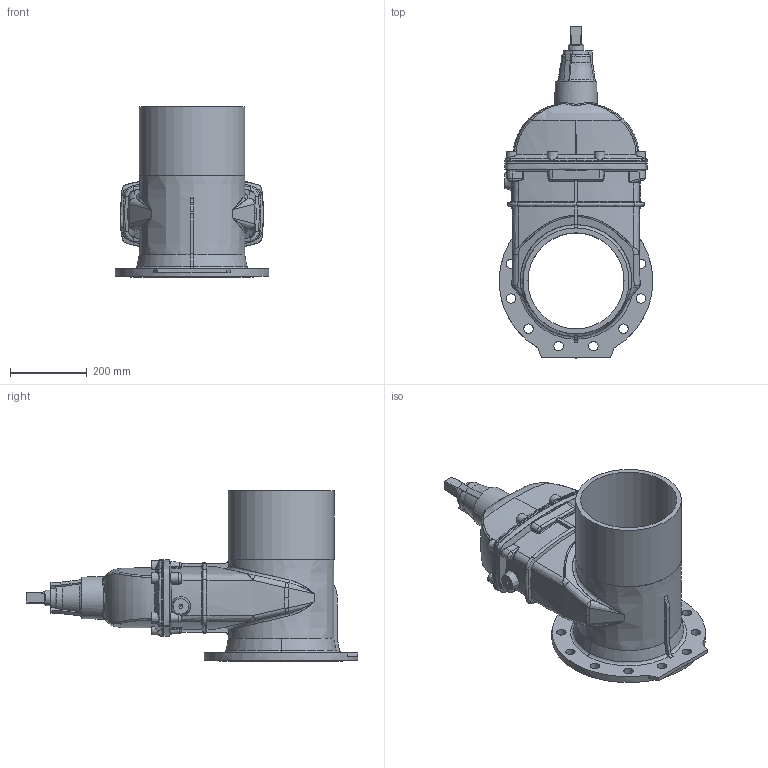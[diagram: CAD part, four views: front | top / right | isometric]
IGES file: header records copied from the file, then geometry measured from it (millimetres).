
Start section: SolidWorks IGES file using analytic representation for surfaces
Global section: file name: \\avksan2\techshare\PBM outline export from Enovia\O_12_51_DN250_AA1_igs.igs; native system: SolidWorks 2012; preprocessor: SolidWorks 2012; author: pbm; date: 151023.095146; units: millimetre
Bounding box: 400 x 863.9 x 444 mm (x, y, z)
Surface area: 1306355.4 mm2 (no closed solid volume)
Topology: 0 solids, 0 shells, 433 faces, 2301 edges, 2254 vertices
Faces by surface type: revolution 225, bspline 208
